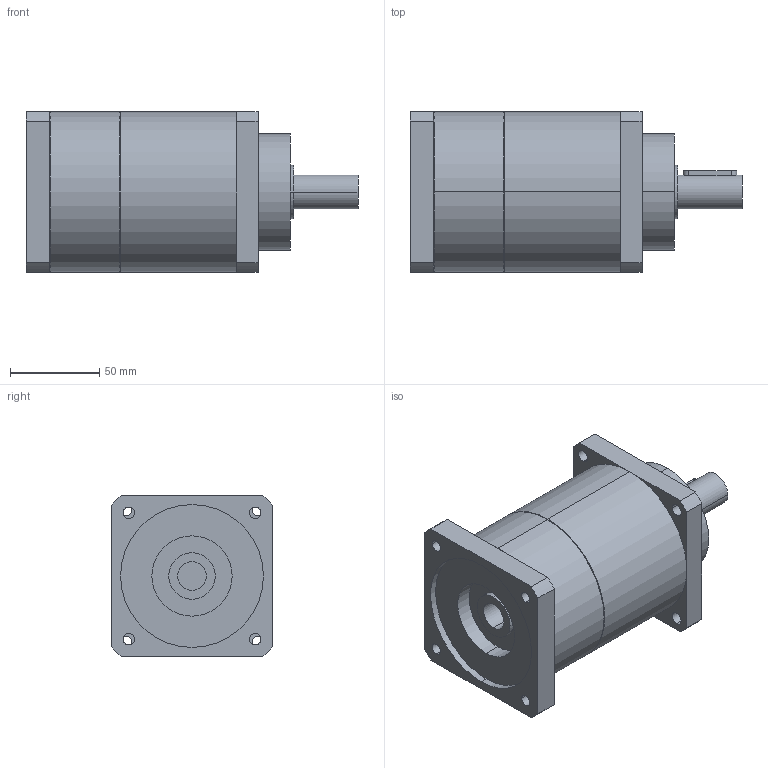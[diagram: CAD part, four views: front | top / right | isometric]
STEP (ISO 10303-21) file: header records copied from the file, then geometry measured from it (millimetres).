
FILE_DESCRIPTION(('CoCreate Modeling STEP Export'),'2;1');
FILE_NAME('GPT90_ig-9-12-16-20-25-28-35-40-50-70-100_19_B5T_16_P06.stp','2015-02-04T11:31:52',(''),(''),'CoCreate Modeling STEP processor for AP214 (Solid Model)','CoCreate Modeling 16.00C 25-Feb-2009 (C) Parametric Technology GmbH','');
FILE_SCHEMA(('AUTOMOTIVE_DESIGN { 1 0 10303 214 1 1 1 1 }'));
Length unit declared in the file: millimetre
Products named in the file (2): GPT90_ig-9-12-16-20-25-28-35-40-50-70-100_19_B5T_16_P06
Assembly tree (1 placements, depth 2):
  GPT90_ig-9-12-16-20-25-28-35-40-50-70-100_19_B5T_16_P06
    GPT90_ig-9-12-16-20-25-28-35-40-50-70-100_19_B5T_16_P06
Bounding box: 186 x 90 x 90 mm (x, y, z)
Volume: 896975.7 mm3; surface area: 70566.2 mm2
Topology: 1 solids, 1 shells, 77 faces, 206 edges, 141 vertices
Faces by surface type: cylinder 46, plane 27, cone 4
Entity records: 2596 total; most frequent: CARTESIAN_POINT 742, ORIENTED_EDGE 412, DIRECTION 324, EDGE_CURVE 206, VERTEX_POINT 141, AXIS2_PLACEMENT_3D 120, EDGE_LOOP 103, VECTOR 84
